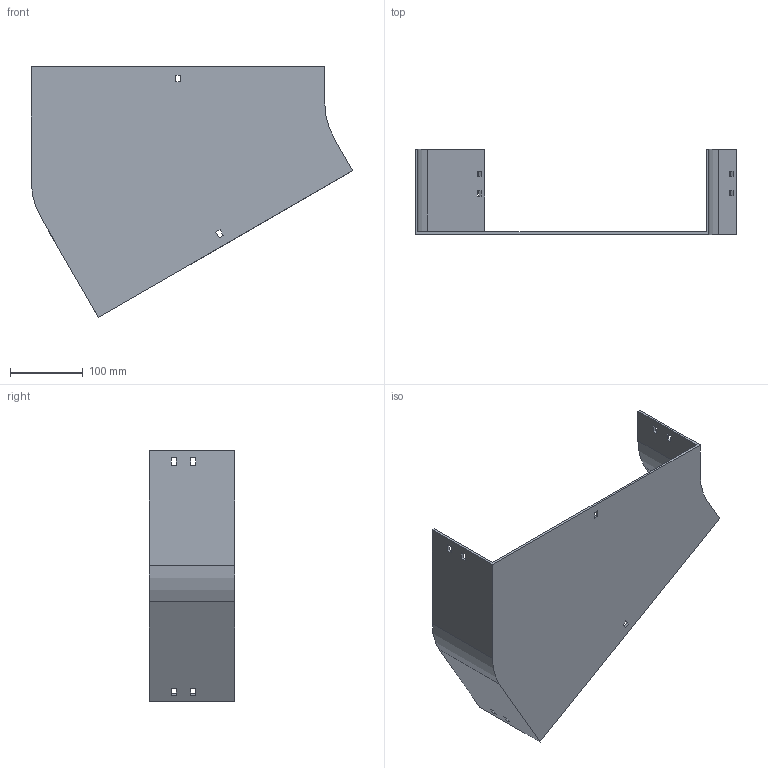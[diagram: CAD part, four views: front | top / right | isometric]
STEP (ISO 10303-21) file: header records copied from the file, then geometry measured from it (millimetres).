
FILE_DESCRIPTION (( 'STEP AP214' ), '1' );
FILE_NAME ('12B1J400.step', '2025-02-21T09:34:03', ( '' ), ( '' ), 'SwSTEP 2.0', 'SolidWorks 2023', '' );
FILE_SCHEMA (( 'AUTOMOTIVE_DESIGN' ));
Length unit declared in the file: millimetre
Products named in the file (1): 12B1J400
Bounding box: 442.4 x 117.5 x 345.3 mm (x, y, z)
Volume: 575842 mm3; surface area: 336469.8 mm2
Topology: 1 solids, 1 shells, 58 faces, 168 edges, 112 vertices
Faces by surface type: plane 54, cylinder 4
Entity records: 1943 total; most frequent: CARTESIAN_POINT 339, ORIENTED_EDGE 336, DIRECTION 294, EDGE_CURVE 168, VECTOR 160, LINE 160, VERTEX_POINT 112, EDGE_LOOP 78
